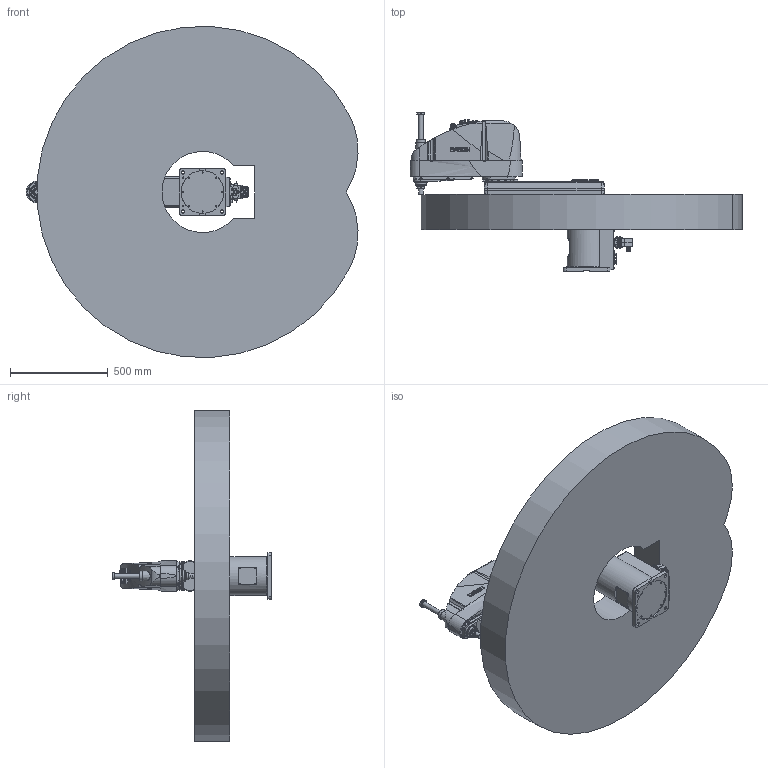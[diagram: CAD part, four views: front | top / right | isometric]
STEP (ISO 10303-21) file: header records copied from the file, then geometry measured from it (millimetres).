
FILE_DESCRIPTION( ( 'STEP AP214' ), '1' );
FILE_NAME( 'C:/Users/9607552/Desktop/GX10-B851S_langle.stp', '2023-08-01T09:14:33', ( '' ), ( '' ), ' ', 'PARTsolutions', ' ' );
FILE_SCHEMA( ( 'AUTOMOTIVE_DESIGN { 1 0 10303 214 1 1 1 1 }' ) );
Length unit declared in the file: millimetre
Products named in the file (7): GX10-B851SA-W; _Base s; _Angle-B; _J1 Arm GX10-450; _J2 Arm GX10-s; _J3 Arm GX10-s (1); _GX10_20B-22_1
Assembly tree (6 placements, depth 2):
  GX10-B851SA-W
    _Base s
    _Angle-B
    _J1 Arm GX10-450
    _J2 Arm GX10-s
    _J3 Arm GX10-s (1)
    _GX10_20B-22_1
Bounding box: 1702.55 x 813.5 x 1697.41 mm (x, y, z)
Volume: 415895024.5 mm3; surface area: 6803569.5 mm2
Topology: 6 solids, 6 shells, 2390 faces, 5842 edges, 3816 vertices
Faces by surface type: plane 1257, cylinder 742, cone 296, torus 62, bspline 32, sphere 1
Full cylindrical faces by diameter (mm): 1 x24, 1.18 x55, 3 x32, 3.242 x10, 3.3 x4, 4.2 x4, 4.8 x4, 5.1 x4, 5.25 x2, 5.34 x4, 5.4 x5, 5.5 x12, 6 x1, 6.2 x4, 6.647 x2, 7 x31, 8 x9, 8.5 x2, 9 x4, 10 x32, 11 x14, 12 x6, 12.25 x1, 13 x2, 14 x8, 14.25 x1, 16 x6, 18 x1, 20.4 x1, 21.7 x2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
Entity records: 90691 total; most frequent: CARTESIAN_POINT 17384, DIRECTION 11177, ORIENTED_EDGE 10390, EDGE_CURVE 5195, AXIS2_PLACEMENT_3D 4267, VERTEX_POINT 3735, EDGE_LOOP 3334, FACE_OUTER_BOUND 2753
